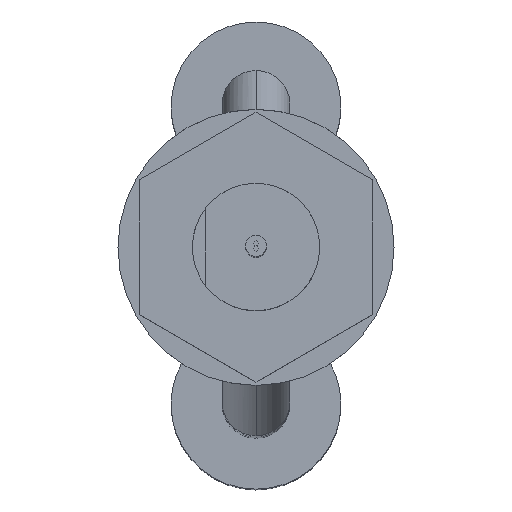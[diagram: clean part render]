
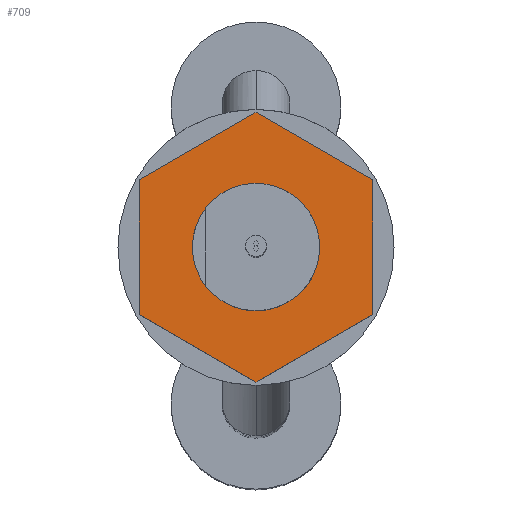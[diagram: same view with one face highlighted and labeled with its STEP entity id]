
A CAD part, top view. The second image highlights one B-rep face of the part: STEP entity #709.
In plain terms, the highlighted planar face has unit normal (0, 0, 1) as drawn and (-1, 0, 0) by its records, which use the part's own axes.
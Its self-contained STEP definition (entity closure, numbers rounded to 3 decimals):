
#642 = EDGE_CURVE ( 'NONE', #714, #643, #1983, .T. ) ;
#643 = VERTEX_POINT ( 'NONE', #1976 ) ;
#644 = ORIENTED_EDGE ( 'NONE', *, *, #645, .T. ) ;
#645 = EDGE_CURVE ( 'NONE', #643, #646, #1975, .T. ) ;
#646 = VERTEX_POINT ( 'NONE', #1971 ) ;
#647 = ORIENTED_EDGE ( 'NONE', *, *, #648, .T. ) ;
#648 = EDGE_CURVE ( 'NONE', #646, #649, #1970, .T. ) ;
#649 = VERTEX_POINT ( 'NONE', #1966 ) ;
#650 = ORIENTED_EDGE ( 'NONE', *, *, #651, .T. ) ;
#651 = EDGE_CURVE ( 'NONE', #649, #652, #1965, .T. ) ;
#652 = VERTEX_POINT ( 'NONE', #2027 ) ;
#653 = ORIENTED_EDGE ( 'NONE', *, *, #654, .T. ) ;
#654 = EDGE_CURVE ( 'NONE', #652, #713, #2026, .T. ) ;
#655 = ORIENTED_EDGE ( 'NONE', *, *, #658, .F. ) ;
#658 = EDGE_CURVE ( 'NONE', #700, #717, #2022, .T. ) ;
#659 = ORIENTED_EDGE ( 'NONE', *, *, #716, .F. ) ;
#660 = EDGE_LOOP ( 'NONE', ( #659, #655 ) ) ;
#700 = VERTEX_POINT ( 'NONE', #2037 ) ;
#709 = ADVANCED_FACE ( 'NONE', ( #2088, #2087 ), #2086, .F. ) ;
#710 = EDGE_LOOP ( 'NONE', ( #711, #720, #644, #647, #650, #653 ) ) ;
#711 = ORIENTED_EDGE ( 'NONE', *, *, #712, .T. ) ;
#712 = EDGE_CURVE ( 'NONE', #713, #714, #2081, .T. ) ;
#713 = VERTEX_POINT ( 'NONE', #2077 ) ;
#714 = VERTEX_POINT ( 'NONE', #2076 ) ;
#716 = EDGE_CURVE ( 'NONE', #717, #700, #2075, .T. ) ;
#717 = VERTEX_POINT ( 'NONE', #2070 ) ;
#720 = ORIENTED_EDGE ( 'NONE', *, *, #642, .T. ) ;
#1962 = DIRECTION ( 'NONE',  ( 0., 0.5, 0.866 ) ) ;
#1963 = VECTOR ( 'NONE', #1962, 1000. ) ;
#1964 = CARTESIAN_POINT ( 'NONE',  ( 17.5, -3.175, 0. ) ) ;
#1965 = LINE ( 'NONE', #1964, #1963 ) ;
#1966 = CARTESIAN_POINT ( 'NONE',  ( 17.5, -3.175, 0. ) ) ;
#1967 = DIRECTION ( 'NONE',  ( 0., -0.5, 0.866 ) ) ;
#1968 = VECTOR ( 'NONE', #1967, 1000. ) ;
#1969 = CARTESIAN_POINT ( 'NONE',  ( 17.5, -1.588, -2.75 ) ) ;
#1970 = LINE ( 'NONE', #1969, #1968 ) ;
#1971 = CARTESIAN_POINT ( 'NONE',  ( 17.5, -1.588, -2.75 ) ) ;
#1972 = DIRECTION ( 'NONE',  ( 0., -1., 0. ) ) ;
#1973 = VECTOR ( 'NONE', #1972, 1000. ) ;
#1974 = CARTESIAN_POINT ( 'NONE',  ( 17.5, 1.588, -2.75 ) ) ;
#1975 = LINE ( 'NONE', #1974, #1973 ) ;
#1976 = CARTESIAN_POINT ( 'NONE',  ( 17.5, 1.588, -2.75 ) ) ;
#1977 = DIRECTION ( 'NONE',  ( 0., -0.5, -0.866 ) ) ;
#1978 = VECTOR ( 'NONE', #1977, 1000. ) ;
#1979 = CARTESIAN_POINT ( 'NONE',  ( 17.5, 3.175, 0. ) ) ;
#1983 = LINE ( 'NONE', #1979, #1978 ) ;
#2018 = DIRECTION ( 'NONE',  ( 0., -1., 0. ) ) ;
#2019 = DIRECTION ( 'NONE',  ( -1., 0., 0. ) ) ;
#2020 = CARTESIAN_POINT ( 'NONE',  ( 17.5, 0., 0. ) ) ;
#2021 = AXIS2_PLACEMENT_3D ( 'NONE', #2020, #2019, #2018 ) ;
#2022 = CIRCLE ( 'NONE', #2021, 1.5 ) ;
#2023 = DIRECTION ( 'NONE',  ( 0., 1., 0. ) ) ;
#2024 = VECTOR ( 'NONE', #2023, 1000. ) ;
#2025 = CARTESIAN_POINT ( 'NONE',  ( 17.5, -1.588, 2.75 ) ) ;
#2026 = LINE ( 'NONE', #2025, #2024 ) ;
#2027 = CARTESIAN_POINT ( 'NONE',  ( 17.5, -1.588, 2.75 ) ) ;
#2037 = CARTESIAN_POINT ( 'NONE',  ( 17.5, -1.5, 0. ) ) ;
#2070 = CARTESIAN_POINT ( 'NONE',  ( 17.5, 1.5, 0. ) ) ;
#2071 = DIRECTION ( 'NONE',  ( 0., -1., 0. ) ) ;
#2072 = DIRECTION ( 'NONE',  ( -1., 0., 0. ) ) ;
#2073 = CARTESIAN_POINT ( 'NONE',  ( 17.5, 0., 0. ) ) ;
#2074 = AXIS2_PLACEMENT_3D ( 'NONE', #2073, #2072, #2071 ) ;
#2075 = CIRCLE ( 'NONE', #2074, 1.5 ) ;
#2076 = CARTESIAN_POINT ( 'NONE',  ( 17.5, 3.175, 0. ) ) ;
#2077 = CARTESIAN_POINT ( 'NONE',  ( 17.5, 1.588, 2.75 ) ) ;
#2078 = DIRECTION ( 'NONE',  ( 0., 0.5, -0.866 ) ) ;
#2079 = VECTOR ( 'NONE', #2078, 1000. ) ;
#2080 = CARTESIAN_POINT ( 'NONE',  ( 17.5, 1.588, 2.75 ) ) ;
#2081 = LINE ( 'NONE', #2080, #2079 ) ;
#2082 = DIRECTION ( 'NONE',  ( 0., 1., 0. ) ) ;
#2083 = DIRECTION ( 'NONE',  ( 1., 0., 0. ) ) ;
#2084 = CARTESIAN_POINT ( 'NONE',  ( 17.5, 0., 5.5 ) ) ;
#2085 = AXIS2_PLACEMENT_3D ( 'NONE', #2084, #2083, #2082 ) ;
#2086 = PLANE ( 'NONE',  #2085 ) ;
#2087 = FACE_BOUND ( 'NONE', #660, .T. ) ;
#2088 = FACE_OUTER_BOUND ( 'NONE', #710, .T. ) ;
